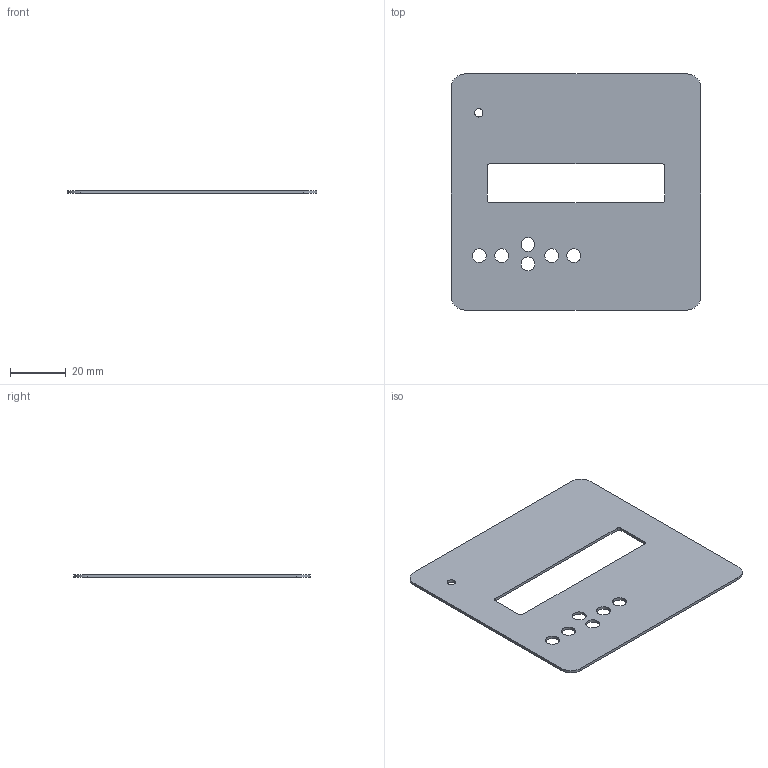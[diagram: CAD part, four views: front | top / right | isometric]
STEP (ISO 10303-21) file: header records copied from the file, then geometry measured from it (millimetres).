
FILE_DESCRIPTION (( 'STEP AP214' ), '1' );
FILE_NAME ('Ïåðåäíÿÿ íàêëåéêà.STEP', '2021-11-10T11:28:32', ( 'j03075@gmail.com' ), ( '' ), 'SwSTEP 2.0', 'SolidWorks 2021', '' );
FILE_SCHEMA (( 'AUTOMOTIVE_DESIGN' ));
Length unit declared in the file: millimetre
Products named in the file (1): Ïåðåäíÿÿ íàêëåéêà
Bounding box: 90 x 85 x 1 mm (x, y, z)
Volume: 6608.5 mm3; surface area: 13816.4 mm2
Topology: 1 solids, 1 shells, 32 faces, 90 edges, 60 vertices
Faces by surface type: cylinder 22, plane 10
Entity records: 1124 total; most frequent: DIRECTION 200, CARTESIAN_POINT 183, ORIENTED_EDGE 180, EDGE_CURVE 90, AXIS2_PLACEMENT_3D 77, VERTEX_POINT 60, EDGE_LOOP 48, LINE 46
